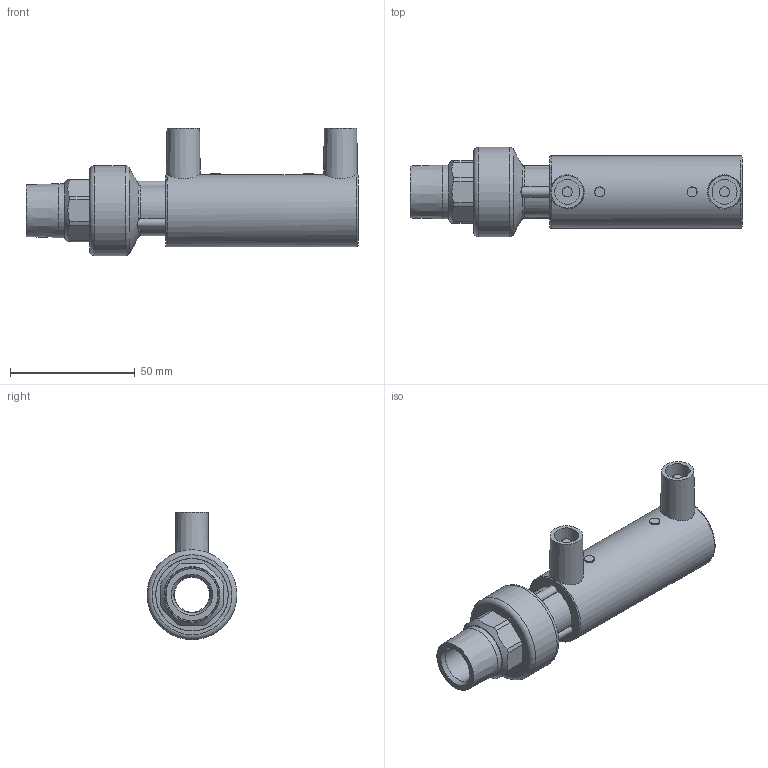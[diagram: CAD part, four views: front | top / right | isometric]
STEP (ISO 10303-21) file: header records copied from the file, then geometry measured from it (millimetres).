
FILE_DESCRIPTION(/* description */ ('Unknown'),/* implementation_level */ '2;1');
FILE_NAME(/* name */ 'MTMP020C.PF',/* time_stamp */ '2021-11-10T15:42:58+01:00',/* author */ ('Unknown'),/* organization */ ('Unknown'),/* preprocessor_version */ 'ST-DEVELOPER v16.7',/* originating_system */ 'Solid Edge',/* authorisation */ 'Unknown');
FILE_SCHEMA (('AUTOMOTIVE_DESIGN {1 0 10303 214 3 1 1}'));
Length unit declared in the file: millimetre
Products named in the file (5): MTMP020C.PF; MP020C.PF; RTOMP020C; Parte PE 020; IOM020C
Assembly tree (4 placements, depth 3):
  MTMP020C.PF
    MP020C.PF
    RTOMP020C
      Parte PE 020
      IOM020C
Bounding box: 133 x 36 x 51 mm (x, y, z)
Volume: 58189.7 mm3; surface area: 33401.6 mm2
Topology: 3 solids, 3 shells, 203 faces, 490 edges, 317 vertices
Faces by surface type: plane 116, cylinder 52, bspline 15, torus 14, cone 6
Full cylindrical faces by diameter (mm): 4 x4, 10 x2, 14 x1, 14.5 x1, 18.5 x2, 20 x2, 21.5 x2, 21.7 x1, 25 x4, 26.4 x2, 29 x9, 36 x1
Entity records: 6482 total; most frequent: CARTESIAN_POINT 1340, DIRECTION 972, ORIENTED_EDGE 862, EDGE_CURVE 431, AXIS2_PLACEMENT_3D 392, VERTEX_POINT 301, EDGE_LOOP 276, FACE_BOUND 276
